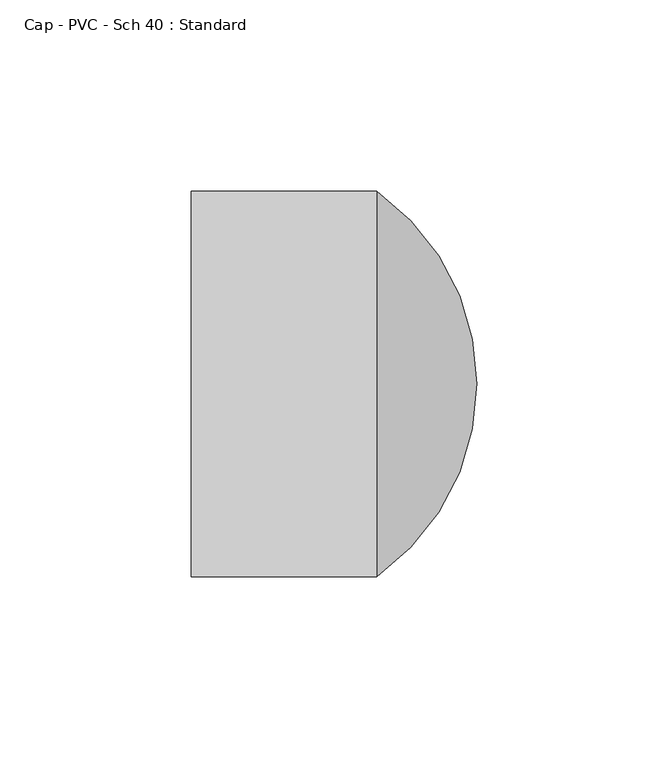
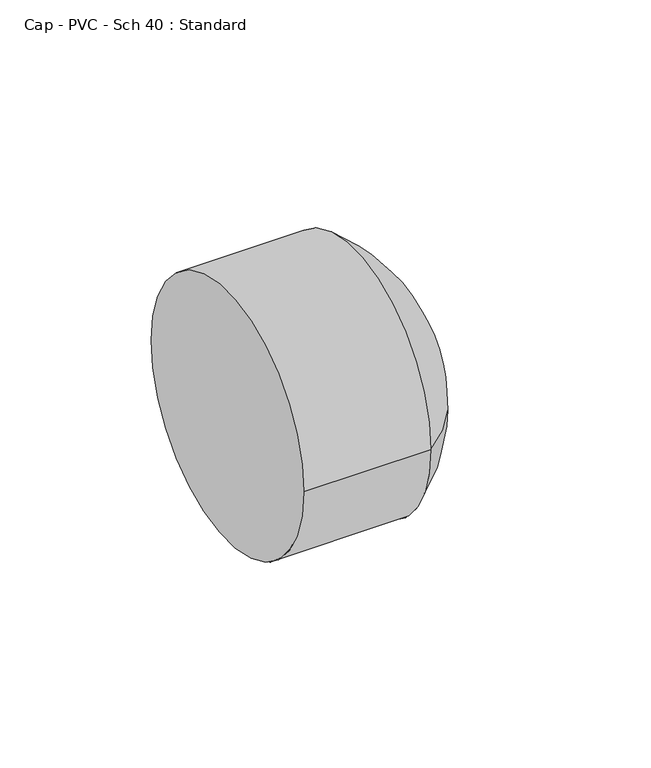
"""IFC4 building model written with IfcOpenShell, lengths in millimetres: pipe fitting geometry, Cap - PVC - Sch 40 : Standard."""

from ifc_helpers import new_model, si_unit, point, frame, origin, origin_2d, place, context, project, spatial, circle_curve, ellipse_curve, trimmed, segment, composite_curve, outline, extrude, source, transform, mapped, element, save
from ifc_brep_helpers import plane_surface, revolved_surface, advanced_brep


def cap_pvc_sch_40_standard_56ae4cf4(model_context):
    return source(origin(), model_context, "Body", "SolidModel", [
        extrude(outline(composite_curve([segment(trimmed(circle_curve(origin_2d(), 50.419), [point((-50.419, 0.0))], [point((50.419, 0.0))], False, "CARTESIAN"), True, "CONTINUOUS"), segment(trimmed(circle_curve(origin_2d(), 50.419), [point((50.419, 0.0))], [point((-50.419, 0.0))], False, "CARTESIAN"), True, "CONTINUOUS")], self_intersect=False)), frame((0.0, 0.0, 0.0), z_axis=(1.0, 0.0, 0.0), x_axis=(0.0, 1.0, 0.0)), (0.0, 0.0, 1.0), 48.514),
        advanced_brep(
        [(48.514, -50.419, 0.0), (48.514, 50.419, 0.0), (74.676, 0.0, 0.0), (48.514, 0.0, 0.0)],
        [
            (0, 1, circle_curve(frame((48.514, 0.0, 0.0), z_axis=(1.0, 0.0, 0.0), x_axis=(0.0, 1.0, 0.0)), 50.419)),
            (1, 2, circle_curve(frame((13.0116432, 0.0, 0.0), z_axis=(0.0, 0.0, -1.0), x_axis=(1.0, 0.0, 0.0)), 61.6643568)),
            (2, 0, circle_curve(frame((13.0116432, 0.0, 0.0), z_axis=(0.0, 0.0, -1.0), x_axis=(1.0, 0.0, 0.0)), 61.6643568)),
            (1, 0, circle_curve(frame((48.514, 0.0, 0.0), z_axis=(1.0, 0.0, 0.0), x_axis=(0.0, 1.0, 0.0)), 50.419)),
            (3, 1),
            (0, 3),
        ],
        [
            revolved_surface(trimmed(ellipse_curve(frame((13.0116432, 0.0, 0.0), z_axis=(0.0, 0.0, 1.0), x_axis=(1.0, 0.0, 0.0)), 61.6643568, 61.6643568), [point((74.676, 0.0, 0.0))], [point((48.514, 50.419, 0.0))], True, "CARTESIAN"), (13.0116432, 0.0, 0.0), (-1.0, 0.0, 0.0)),
            plane_surface(frame((48.514, 0.0, 0.0), z_axis=(-1.0, 0.0, 0.0), x_axis=(0.0, 1.0, 0.0))),
        ],
        [
            (0, [[1, 2, 3]]),
            (0, [[4, -3, -2]]),
            (1, [[5, -1, 6]]),
            (1, [[-6, -4, -5]]),
        ],
    ),
    ])


if __name__ == "__main__":
    model = new_model("IFC4")
    model_context = context("Model", 3, world=origin())
    ifc_project = project(units=[si_unit("LENGTHUNIT", "METRE", prefix="MILLI")], contexts=[model_context])
    site = spatial("IfcSite", under=ifc_project)
    building = spatial("IfcBuilding", under=site)
    placement = place(None, origin())
    cap_pvc_sch_40_standard_shape = cap_pvc_sch_40_standard_56ae4cf4(model_context)
    element("IfcPipeFitting", 1, ObjectType="Cap - PVC - Sch 40 : Standard", at=placement, inside=building, context=model_context, shape_type="MappedRepresentation", body=[
        mapped(cap_pvc_sch_40_standard_shape, transform((0.0, 0.0, 0.0), x_axis=(1.0, 0.0, 0.0), y_axis=(0.0, 1.0, 0.0), z_axis=(0.0, 0.0, 1.0))),
    ])
    save(model, "model.ifc")
